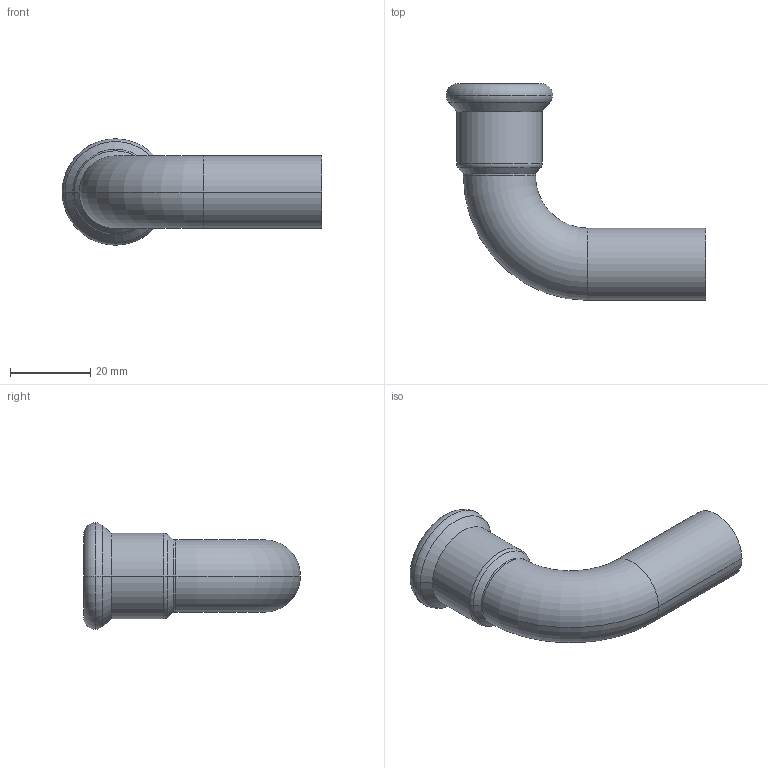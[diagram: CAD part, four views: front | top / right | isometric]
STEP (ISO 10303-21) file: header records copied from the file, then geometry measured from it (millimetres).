
FILE_DESCRIPTION(('CoCreate Modeling STEP Export'),'2;1');
FILE_NAME('C1411 18x18.stp','2014-11-07T16:52:46',(''),(''),'CoCreate Modeling STEP processor for AP214 (Solid Model)','CoCreate Modeling 17.00A 17-Jun-2010 (C) Parametric Technology GmbH','');
FILE_SCHEMA(('AUTOMOTIVE_DESIGN { 1 0 10303 214 1 1 1 1 }'));
Length unit declared in the file: millimetre
Products named in the file (2): C1411_18x18
Assembly tree (1 placements, depth 2):
  C1411_18x18
    C1411_18x18
Bounding box: 64.65 x 54 x 26.5 mm (x, y, z)
Volume: 7161 mm3; surface area: 10127.8 mm2
Topology: 1 solids, 1 shells, 32 faces, 68 edges, 40 vertices
Faces by surface type: cylinder 14, torus 10, plane 4, cone 4
Entity records: 748 total; most frequent: ORIENTED_EDGE 136, DIRECTION 116, CARTESIAN_POINT 107, EDGE_CURVE 68, AXIS2_PLACEMENT_3D 49, VERTEX_POINT 40, EDGE_LOOP 36, FACE_OUTER_BOUND 32
